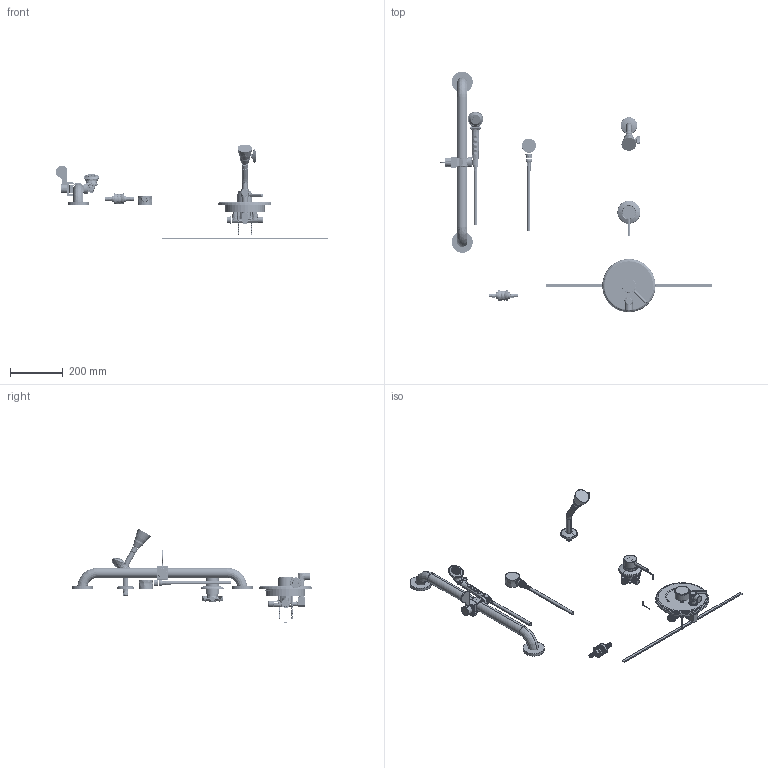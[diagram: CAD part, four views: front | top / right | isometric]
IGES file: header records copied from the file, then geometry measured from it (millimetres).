
Start section:  PTC IGES file: sh-pb4-36-053_REV030624.igs
Global section: file name: sh-pb4-36-053_REV030624.igs; native system: Creo Parametric by PTC Inc.; preprocessor: 2021184; author: rodjo; organization: Unknown; date: 20240306.153732; units: inch
Bounding box: 1037.97 x 916.45 x 360.75 mm (x, y, z)
Surface area: 522357.7 mm2 (no closed solid volume)
Topology: 0 solids, 0 shells, 1645 faces, 15803 edges, 21829 vertices
Faces by surface type: revolution 1206, bspline 439
